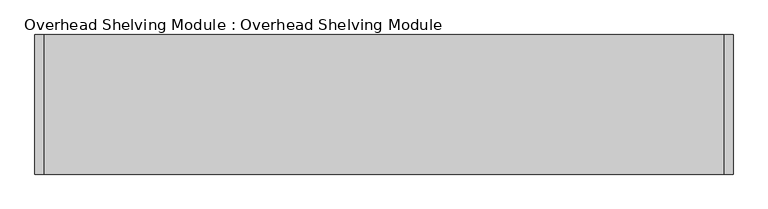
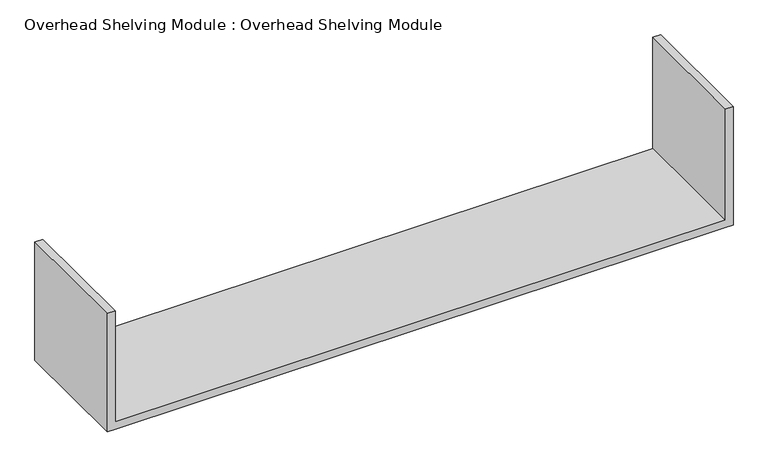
"""IFC4 building model written with IfcOpenShell, lengths in millimetres: furniture geometry, Overhead Shelving Module : Overhead Shelving Module."""

from ifc_helpers import new_model, si_unit, frame, origin, place, context, project, spatial, polyline, outline, extrude, source, transform, mapped, element, save


def overhead_shelving_module_overhead_shelving_module_7dcda1b9(model_context):
    return source(origin(), model_context, "Body", "SweptSolid", [
        extrude(outline(polyline([(1676.4, -919.7824704), (1371.6, -919.7824704), (1371.6, -900.7324704), (1371.6, 585.1675296), (1371.6, 604.2175296), (1676.4, 604.2175296), (1676.4, 585.1675296), (1390.65, 585.1675296), (1390.65, -900.7324704), (1676.4, -900.7324704), (1676.4, -919.7824704)])), frame((0.0, -236.1636391, 0.0), z_axis=(0.0, 1.0, 0.0), x_axis=(0.0, 0.0, 1.0)), (0.0, 0.0, 1.0), 304.8),
    ])


if __name__ == "__main__":
    model = new_model("IFC4")
    model_context = context("Model", 3, world=origin())
    ifc_project = project(units=[si_unit("LENGTHUNIT", "METRE", prefix="MILLI")], contexts=[model_context])
    site = spatial("IfcSite", under=ifc_project)
    building = spatial("IfcBuilding", under=site)
    placement = place(None, origin())
    overhead_shelving_module_overhead_shelving_module_shape = overhead_shelving_module_overhead_shelving_module_7dcda1b9(model_context)
    element("IfcFurniture", 1, ObjectType="Overhead Shelving Module : Overhead Shelving Module", at=placement, inside=building, context=model_context, shape_type="MappedRepresentation", body=[
        mapped(overhead_shelving_module_overhead_shelving_module_shape, transform((0.0, 0.0, 0.0), x_axis=(1.0, 0.0, 0.0), y_axis=(0.0, 1.0, 0.0), z_axis=(0.0, 0.0, 1.0))),
    ])
    save(model, "model.ifc")
